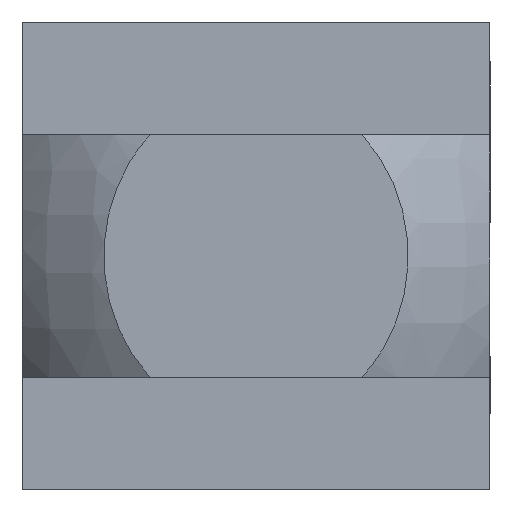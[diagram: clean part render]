
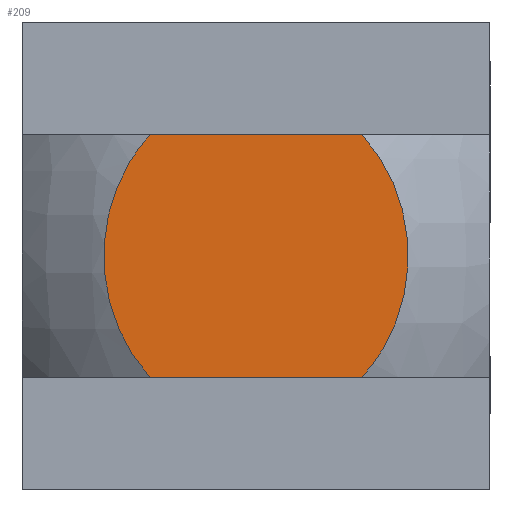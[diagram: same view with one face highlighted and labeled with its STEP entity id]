
A CAD part, left-side view. The second image highlights one B-rep face of the part: STEP entity #209.
In plain terms, the highlighted planar face has unit normal (-1, 0, 0).
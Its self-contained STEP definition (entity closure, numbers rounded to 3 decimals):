
#209 = ADVANCED_FACE ( 'NONE', ( #768 ), #767, .T. ) ;
#210 = EDGE_LOOP ( 'NONE', ( #211, #236, #233, #223 ) ) ;
#211 = ORIENTED_EDGE ( 'NONE', *, *, #212, .F. ) ;
#212 = EDGE_CURVE ( 'NONE', #213, #237, #762, .T. ) ;
#213 = VERTEX_POINT ( 'NONE', #761 ) ;
#222 = VERTEX_POINT ( 'NONE', #844 ) ;
#223 = ORIENTED_EDGE ( 'NONE', *, *, #224, .F. ) ;
#224 = EDGE_CURVE ( 'NONE', #237, #222, #843, .T. ) ;
#227 = EDGE_CURVE ( 'NONE', #222, #232, #342, .T. ) ;
#231 = EDGE_CURVE ( 'NONE', #213, #232, #886, .T. ) ;
#232 = VERTEX_POINT ( 'NONE', #882 ) ;
#233 = ORIENTED_EDGE ( 'NONE', *, *, #227, .F. ) ;
#236 = ORIENTED_EDGE ( 'NONE', *, *, #231, .T. ) ;
#237 = VERTEX_POINT ( 'NONE', #881 ) ;
#342 = B_SPLINE_CURVE_WITH_KNOTS ( 'NONE', 3,
 ( #831, #830, #829, #828, #827, #347, #346, #345, #344, #349, #348, #571, #570, #1099, #1100, #1101, #561, #655, #1095, #1096, #1097, #1098 ),
 .UNSPECIFIED., .F., .F.,
 ( 4, 2, 2, 2, 2, 2, 2, 2, 2, 2, 4 ),
 ( 0.05, 0.052, 0.054, 0.055, 0.056, 0.058, 0.06, 0.061, 0.062, 0.064, 0.066 ),
 .UNSPECIFIED. ) ;
#344 = CARTESIAN_POINT ( 'NONE',  ( -36., 8.552, -2.216 ) ) ;
#345 = CARTESIAN_POINT ( 'NONE',  ( -36., 8.48, -2.532 ) ) ;
#346 = CARTESIAN_POINT ( 'NONE',  ( -36., 8.31, -3.149 ) ) ;
#347 = CARTESIAN_POINT ( 'NONE',  ( -36., 8.211, -3.453 ) ) ;
#348 = CARTESIAN_POINT ( 'NONE',  ( -36., 8.779, -0.63 ) ) ;
#349 = CARTESIAN_POINT ( 'NONE',  ( -36., 8.723, -1.269 ) ) ;
#561 = CARTESIAN_POINT ( 'NONE',  ( -36., 8.208, 3.462 ) ) ;
#570 = CARTESIAN_POINT ( 'NONE',  ( -36., 8.72, 1.29 ) ) ;
#571 = CARTESIAN_POINT ( 'NONE',  ( -36., 8.778, 0.656 ) ) ;
#655 = CARTESIAN_POINT ( 'NONE',  ( -36., 7.869, 4.359 ) ) ;
#759 = CARTESIAN_POINT ( 'NONE',  ( -36., -6.542, 6.527 ) ) ;
#760 = CARTESIAN_POINT ( 'NONE',  ( -36., -6.105, 7. ) ) ;
#761 = CARTESIAN_POINT ( 'NONE',  ( -36., -6.105, 7. ) ) ;
#762 = B_SPLINE_CURVE_WITH_KNOTS ( 'NONE', 3,
 ( #760, #759, #823, #822, #821, #820, #819, #818, #817, #816, #815, #814, #813, #812, #811, #810, #809, #808, #807, #806 ),
 .UNSPECIFIED., .F., .F.,
 ( 4, 2, 2, 2, 2, 2, 2, 2, 2, 4 ),
 ( 0.021, 0.023, 0.025, 0.027, 0.028, 0.029, 0.031, 0.033, 0.035, 0.037 ),
 .UNSPECIFIED. ) ;
#763 = DIRECTION ( 'NONE',  ( 0., 0., 1. ) ) ;
#764 = DIRECTION ( 'NONE',  ( -1., 0., 0. ) ) ;
#765 = CARTESIAN_POINT ( 'NONE',  ( -36., 13.5, -13.5 ) ) ;
#766 = AXIS2_PLACEMENT_3D ( 'NONE', #765, #764, #763 ) ;
#767 = PLANE ( 'NONE',  #766 ) ;
#768 = FACE_OUTER_BOUND ( 'NONE', #210, .T. ) ;
#806 = CARTESIAN_POINT ( 'NONE',  ( -36., -6.105, -7. ) ) ;
#807 = CARTESIAN_POINT ( 'NONE',  ( -36., -6.536, -6.534 ) ) ;
#808 = CARTESIAN_POINT ( 'NONE',  ( -36., -6.919, -6.026 ) ) ;
#809 = CARTESIAN_POINT ( 'NONE',  ( -36., -7.592, -4.927 ) ) ;
#810 = CARTESIAN_POINT ( 'NONE',  ( -36., -7.871, -4.352 ) ) ;
#811 = CARTESIAN_POINT ( 'NONE',  ( -36., -8.321, -3.163 ) ) ;
#812 = CARTESIAN_POINT ( 'NONE',  ( -36., -8.492, -2.546 ) ) ;
#813 = CARTESIAN_POINT ( 'NONE',  ( -36., -8.722, -1.28 ) ) ;
#814 = CARTESIAN_POINT ( 'NONE',  ( -36., -8.778, -0.645 ) ) ;
#815 = CARTESIAN_POINT ( 'NONE',  ( -36., -8.779, 0.31 ) ) ;
#816 = CARTESIAN_POINT ( 'NONE',  ( -36., -8.765, 0.628 ) ) ;
#817 = CARTESIAN_POINT ( 'NONE',  ( -36., -8.708, 1.266 ) ) ;
#818 = CARTESIAN_POINT ( 'NONE',  ( -36., -8.666, 1.586 ) ) ;
#819 = CARTESIAN_POINT ( 'NONE',  ( -36., -8.495, 2.533 ) ) ;
#820 = CARTESIAN_POINT ( 'NONE',  ( -36., -8.326, 3.148 ) ) ;
#821 = CARTESIAN_POINT ( 'NONE',  ( -36., -7.876, 4.342 ) ) ;
#822 = CARTESIAN_POINT ( 'NONE',  ( -36., -7.592, 4.927 ) ) ;
#823 = CARTESIAN_POINT ( 'NONE',  ( -36., -6.925, 6.017 ) ) ;
#827 = CARTESIAN_POINT ( 'NONE',  ( -36., 7.874, -4.347 ) ) ;
#828 = CARTESIAN_POINT ( 'NONE',  ( -36., 7.594, -4.923 ) ) ;
#829 = CARTESIAN_POINT ( 'NONE',  ( -36., 6.922, -6.022 ) ) ;
#830 = CARTESIAN_POINT ( 'NONE',  ( -36., 6.538, -6.531 ) ) ;
#831 = CARTESIAN_POINT ( 'NONE',  ( -36., 6.105, -7. ) ) ;
#840 = DIRECTION ( 'NONE',  ( 0., 1., 0. ) ) ;
#841 = VECTOR ( 'NONE', #840, 1000. ) ;
#842 = CARTESIAN_POINT ( 'NONE',  ( -36., -13.5, -7. ) ) ;
#843 = LINE ( 'NONE', #842, #841 ) ;
#844 = CARTESIAN_POINT ( 'NONE',  ( -36., 6.105, -7. ) ) ;
#881 = CARTESIAN_POINT ( 'NONE',  ( -36., -6.105, -7. ) ) ;
#882 = CARTESIAN_POINT ( 'NONE',  ( -36., 6.105, 7. ) ) ;
#883 = DIRECTION ( 'NONE',  ( 0., 1., 0. ) ) ;
#884 = VECTOR ( 'NONE', #883, 1000. ) ;
#885 = CARTESIAN_POINT ( 'NONE',  ( -36., -13.5, 7. ) ) ;
#886 = LINE ( 'NONE', #885, #884 ) ;
#1095 = CARTESIAN_POINT ( 'NONE',  ( -36., 7.59, 4.929 ) ) ;
#1096 = CARTESIAN_POINT ( 'NONE',  ( -36., 6.926, 6.015 ) ) ;
#1097 = CARTESIAN_POINT ( 'NONE',  ( -36., 6.536, 6.534 ) ) ;
#1098 = CARTESIAN_POINT ( 'NONE',  ( -36., 6.105, 7. ) ) ;
#1099 = CARTESIAN_POINT ( 'NONE',  ( -36., 8.549, 2.228 ) ) ;
#1100 = CARTESIAN_POINT ( 'NONE',  ( -36., 8.479, 2.539 ) ) ;
#1101 = CARTESIAN_POINT ( 'NONE',  ( -36., 8.308, 3.155 ) ) ;
